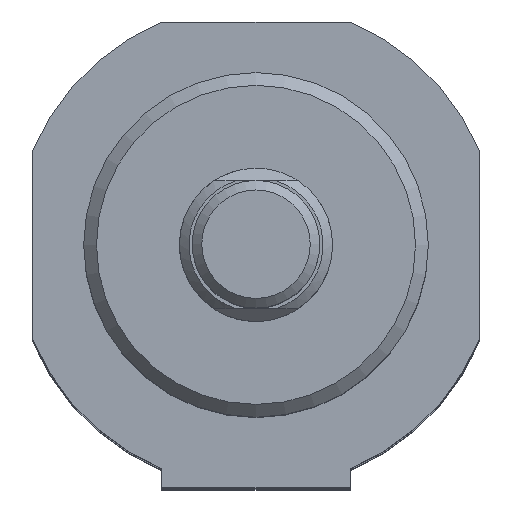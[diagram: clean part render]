
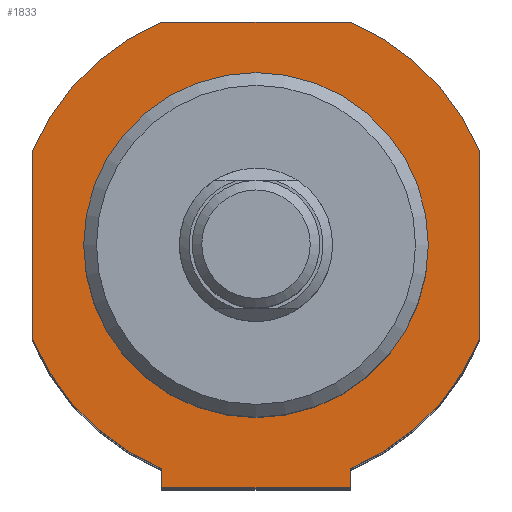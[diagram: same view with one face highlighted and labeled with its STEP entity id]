
A CAD part, top view. The second image highlights one B-rep face of the part: STEP entity #1833.
In plain terms, the highlighted planar face has unit normal (0, 0, 1).
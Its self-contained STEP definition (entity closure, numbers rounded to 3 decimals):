
#898=CARTESIAN_POINT('',(7.399,-19.0,124.));
#899=VERTEX_POINT('',#898);
#900=CARTESIAN_POINT('',(-7.399,-19.0,124.));
#901=VERTEX_POINT('',#900);
#902=CARTESIAN_POINT('',(7.399,-19.0,124.));
#903=DIRECTION('',(-1.0,0.0,0.0));
#904=VECTOR('',#903,14.799);
#905=LINE('',#902,#904);
#906=EDGE_CURVE('',#899,#901,#905,.T.);
#1054=CARTESIAN_POINT('',(-7.399,-17.5,124.));
#1055=VERTEX_POINT('',#1054);
#1069=CARTESIAN_POINT('',(-7.399,-17.5,124.));
#1070=DIRECTION('',(0.0,-1.0,0.0));
#1071=VECTOR('',#1070,1.5);
#1072=LINE('',#1069,#1071);
#1073=EDGE_CURVE('',#1055,#901,#1072,.T.);
#1085=CARTESIAN_POINT('',(7.399,-17.5,124.));
#1086=VERTEX_POINT('',#1085);
#1093=CARTESIAN_POINT('',(7.399,-17.5,124.));
#1094=DIRECTION('',(0.0,-1.0,0.0));
#1095=VECTOR('',#1094,1.5);
#1096=LINE('',#1093,#1095);
#1097=EDGE_CURVE('',#1086,#899,#1096,.T.);
#1561=CARTESIAN_POINT('',(13.5,0.,124.));
#1562=VERTEX_POINT('',#1561);
#1563=CARTESIAN_POINT('',(0.,0.,124.));
#1564=DIRECTION('',(0.0,0.0,-1.0));
#1565=DIRECTION('',(-1.0,0.0,0.0));
#1566=AXIS2_PLACEMENT_3D('',#1563,#1564,#1565);
#1567=CIRCLE('',#1566,13.5);
#1568=EDGE_CURVE('',#1562,#1562,#1567,.T.);
#1653=CARTESIAN_POINT('',(-7.399,17.5,124.));
#1654=VERTEX_POINT('',#1653);
#1655=CARTESIAN_POINT('',(7.399,17.5,124.));
#1656=VERTEX_POINT('',#1655);
#1657=CARTESIAN_POINT('',(-7.399,17.5,124.));
#1658=DIRECTION('',(1.0,0.0,0.0));
#1659=VECTOR('',#1658,14.799);
#1660=LINE('',#1657,#1659);
#1661=EDGE_CURVE('',#1654,#1656,#1660,.T.);
#1684=CARTESIAN_POINT('',(17.5,7.399,124.));
#1685=VERTEX_POINT('',#1684);
#1686=CARTESIAN_POINT('',(0.,0.,124.0));
#1687=DIRECTION('',(0.,0.,-1.0));
#1688=DIRECTION('',(0.921,0.389,0.));
#1689=AXIS2_PLACEMENT_3D('',#1686,#1687,#1688);
#1690=CIRCLE('',#1689,19.0);
#1691=EDGE_CURVE('',#1656,#1685,#1690,.T.);
#1709=CARTESIAN_POINT('',(17.5,-7.399,124.));
#1710=VERTEX_POINT('',#1709);
#1711=CARTESIAN_POINT('',(17.5,7.399,124.));
#1712=DIRECTION('',(0.0,-1.0,0.0));
#1713=VECTOR('',#1712,14.799);
#1714=LINE('',#1711,#1713);
#1715=EDGE_CURVE('',#1685,#1710,#1714,.T.);
#1733=CARTESIAN_POINT('',(0.,0.,124.0));
#1734=DIRECTION('',(0.,0.,-1.));
#1735=DIRECTION('',(0.389,-0.921,0.));
#1736=AXIS2_PLACEMENT_3D('',#1733,#1734,#1735);
#1737=CIRCLE('',#1736,19.0);
#1738=EDGE_CURVE('',#1710,#1086,#1737,.T.);
#1751=CARTESIAN_POINT('',(-17.5,-7.399,124.));
#1752=VERTEX_POINT('',#1751);
#1753=CARTESIAN_POINT('',(0.,0.,124.0));
#1754=DIRECTION('',(0.,0.,-1.0));
#1755=DIRECTION('',(-0.921,-0.389,0.));
#1756=AXIS2_PLACEMENT_3D('',#1753,#1754,#1755);
#1757=CIRCLE('',#1756,19.0);
#1758=EDGE_CURVE('',#1055,#1752,#1757,.T.);
#1776=CARTESIAN_POINT('',(-17.5,7.399,124.));
#1777=VERTEX_POINT('',#1776);
#1778=CARTESIAN_POINT('',(-17.5,-7.399,124.));
#1779=DIRECTION('',(0.0,1.0,0.0));
#1780=VECTOR('',#1779,14.799);
#1781=LINE('',#1778,#1780);
#1782=EDGE_CURVE('',#1752,#1777,#1781,.T.);
#1800=CARTESIAN_POINT('',(0.,0.,124.0));
#1801=DIRECTION('',(0.,0.,-1.));
#1802=DIRECTION('',(-0.389,0.921,0.));
#1803=AXIS2_PLACEMENT_3D('',#1800,#1801,#1802);
#1804=CIRCLE('',#1803,19.0);
#1805=EDGE_CURVE('',#1777,#1654,#1804,.T.);
#1813=CARTESIAN_POINT('',(0.,0.,124.));
#1814=DIRECTION('',(0.0,0.0,1.0));
#1815=DIRECTION('',(1.0,0.0,0.0));
#1816=AXIS2_PLACEMENT_3D('',#1813,#1814,#1815);
#1817=PLANE('',#1816);
#1818=ORIENTED_EDGE('',*,*,#1661,.F.);
#1819=ORIENTED_EDGE('',*,*,#1805,.F.);
#1820=ORIENTED_EDGE('',*,*,#1782,.F.);
#1821=ORIENTED_EDGE('',*,*,#1758,.F.);
#1822=ORIENTED_EDGE('',*,*,#1073,.T.);
#1823=ORIENTED_EDGE('',*,*,#906,.F.);
#1824=ORIENTED_EDGE('',*,*,#1097,.F.);
#1825=ORIENTED_EDGE('',*,*,#1738,.F.);
#1826=ORIENTED_EDGE('',*,*,#1715,.F.);
#1827=ORIENTED_EDGE('',*,*,#1691,.F.);
#1828=EDGE_LOOP('',(#1818,#1819,#1820,#1821,#1822,#1823,#1824,#1825,#1826,#1827));
#1829=FACE_OUTER_BOUND('',#1828,.T.);
#1830=ORIENTED_EDGE('',*,*,#1568,.T.);
#1831=EDGE_LOOP('',(#1830));
#1832=FACE_BOUND('',#1831,.T.);
#1833=ADVANCED_FACE('',(#1829,#1832),#1817,.T.);
